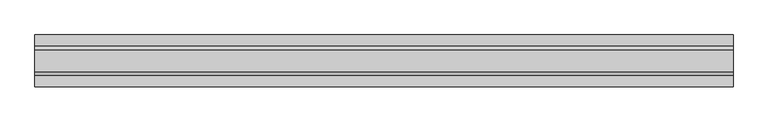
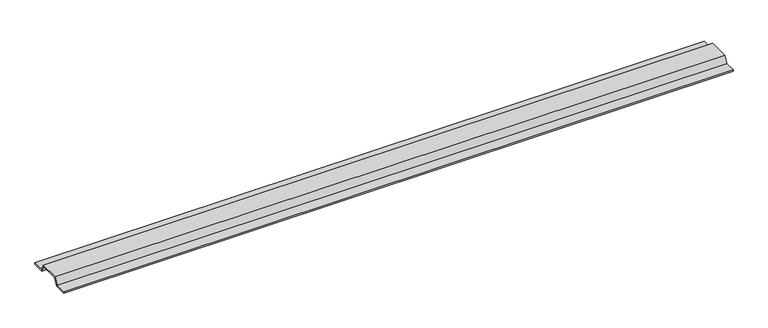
"""IFC4 building model written with IfcOpenShell, lengths in millimetres: beam geometry, B-Deck_Single_Flute_3d_14388 : B-Deck_Single_Flute_3d_14388."""

from ifc_helpers import new_model, si_unit, frame, origin, place, context, project, spatial, polyline, outline, extrude, source, transform, mapped, element, save


def beam_ae19472e(model_context):
    return source(origin(), model_context, "Body", "SweptSolid", [
        extrude(outline(polyline([(101.6, 6.35), (101.6, 0.0), (53.9397353, 0.0), (38.0647353, 27.4963066), (-38.0647353, 27.4963066), (-53.9397353, 0.0), (-101.6, 0.0), (-101.6, 6.35), (-57.6059095, 6.35), (-41.7309095, 33.8463066), (41.7309095, 33.8463066), (57.6059095, 6.35), (101.6, 6.35)])), frame((-1368.425, 0.0, 0.0), z_axis=(1.0, 0.0, 0.0), x_axis=(0.0, 1.0, 0.0)), (0.0, 0.0, 1.0), 2727.325),
    ])


if __name__ == "__main__":
    model = new_model("IFC4")
    model_context = context("Model", 3, world=origin())
    ifc_project = project(units=[si_unit("LENGTHUNIT", "METRE", prefix="MILLI")], contexts=[model_context])
    site = spatial("IfcSite", under=ifc_project)
    building = spatial("IfcBuilding", under=site)
    placement = place(None, origin())
    beam_shape = beam_ae19472e(model_context)
    element("IfcBeam", 1, ObjectType="B-Deck_Single_Flute_3d_14388 : B-Deck_Single_Flute_3d_14388", at=placement, inside=building, context=model_context, shape_type="MappedRepresentation", body=[
        mapped(beam_shape, transform((0.0, 0.0, 0.0), x_axis=(1.0, 0.0, 0.0), y_axis=(0.0, 1.0, 0.0), z_axis=(0.0, 0.0, 1.0))),
    ])
    save(model, "model.ifc")
